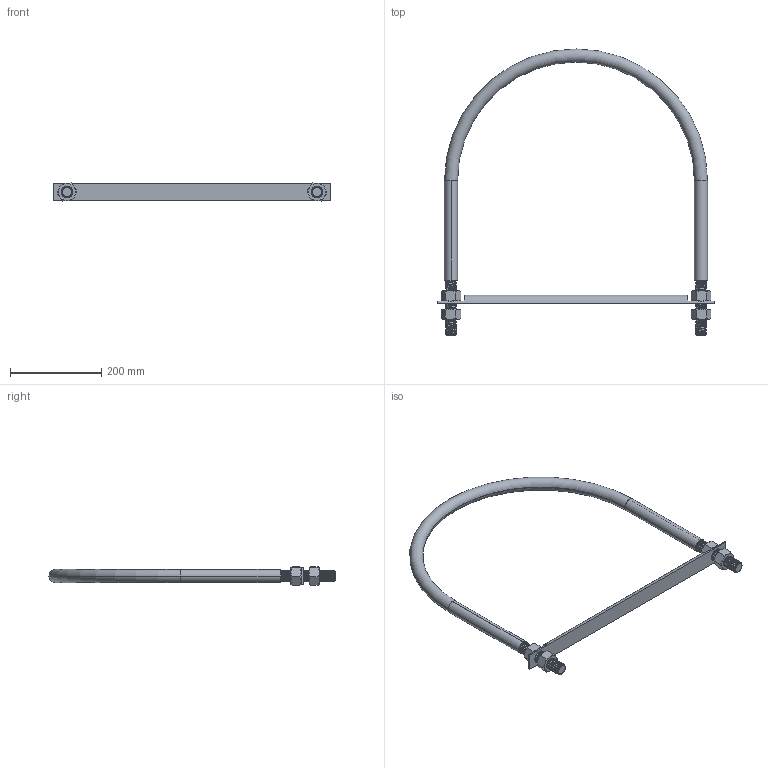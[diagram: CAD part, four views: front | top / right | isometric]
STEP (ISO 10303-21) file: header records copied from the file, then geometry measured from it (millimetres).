
FILE_DESCRIPTION (( 'STEP AP214' ), '1' );
FILE_NAME ('NUB1476.STEP', '2022-04-04T17:54:03', ( '' ), ( '' ), 'SwSTEP 2.0', 'SolidWorks 2021', '' );
FILE_SCHEMA (( 'AUTOMOTIVE_DESIGN' ));
Length unit declared in the file: inch
Products named in the file (4): ROD0650_IR23-20 XL [ROD0650]; NUB1476; FAS0050; UBT1003_UBT23-20-1-8 XL [NUB1476]
Assembly tree (6 placements, depth 2):
  NUB1476
    FAS0050  x4
    UBT1003_UBT23-20-1-8 XL [NUB1476]
    ROD0650_IR23-20 XL [ROD0650]
Bounding box: 609.6 x 628.75 x 39.77 mm (x, y, z)
Volume: 1266254 mm3; surface area: 441978.2 mm2
Topology: 7 solids, 7 shells, 309 faces, 817 edges, 522 vertices
Faces by surface type: cylinder 178, cone 76, plane 45, torus 6, bspline 4
Entity records: 19579 total; most frequent: CARTESIAN_POINT 14397, ORIENTED_EDGE 1238, DIRECTION 816, EDGE_CURVE 619, VERTEX_POINT 405, AXIS2_PLACEMENT_3D 308, EDGE_LOOP 230, ADVANCED_FACE 222
